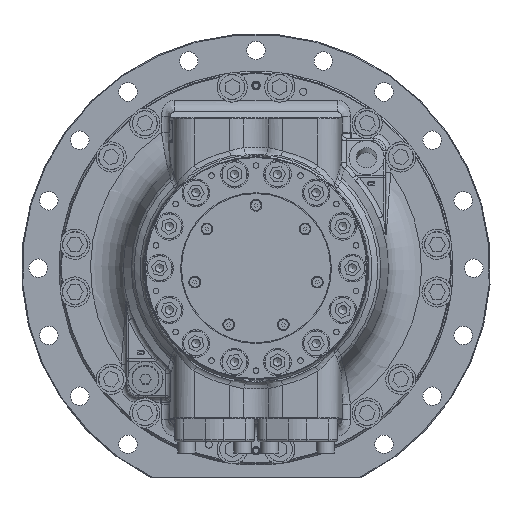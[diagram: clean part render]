
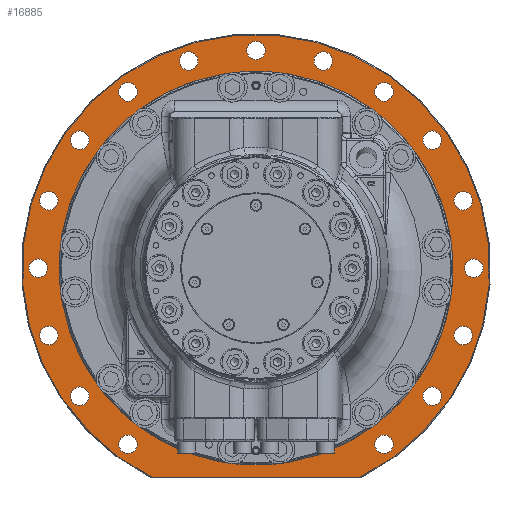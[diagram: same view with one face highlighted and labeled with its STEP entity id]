
A CAD part, left-side view. The second image highlights one B-rep face of the part: STEP entity #16885.
In plain terms, the highlighted planar face has unit normal (-1, 0, 0).
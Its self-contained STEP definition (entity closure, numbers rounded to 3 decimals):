
#10223=LINE('',#119062,#12901);
#12901=VECTOR('',#75235,1.);
#16885=ADVANCED_FACE('',(#20301,#20302,#20303,#20304,#20305,#20306,#20307,
#20308,#20309,#20310,#20311,#20312,#20313,#20314,#20315,#20316,#20317,#20318,
#20319),#18652,.F.);
#18652=PLANE('',#62041);
#20301=FACE_BOUND('',#24646,.T.);
#20302=FACE_BOUND('',#24647,.T.);
#20303=FACE_BOUND('',#24648,.T.);
#20304=FACE_BOUND('',#24649,.T.);
#20305=FACE_BOUND('',#24650,.T.);
#20306=FACE_BOUND('',#24651,.T.);
#20307=FACE_BOUND('',#24652,.T.);
#20308=FACE_BOUND('',#24653,.T.);
#20309=FACE_BOUND('',#24654,.T.);
#20310=FACE_BOUND('',#24655,.T.);
#20311=FACE_BOUND('',#24656,.T.);
#20312=FACE_BOUND('',#24657,.T.);
#20313=FACE_BOUND('',#24658,.T.);
#20314=FACE_BOUND('',#24659,.T.);
#20315=FACE_BOUND('',#24660,.T.);
#20316=FACE_BOUND('',#24661,.T.);
#20317=FACE_BOUND('',#24662,.T.);
#20318=FACE_BOUND('',#24663,.T.);
#20319=FACE_BOUND('',#24664,.T.);
#24646=EDGE_LOOP('',(#39749));
#24647=EDGE_LOOP('',(#39750));
#24648=EDGE_LOOP('',(#39751));
#24649=EDGE_LOOP('',(#39752));
#24650=EDGE_LOOP('',(#39753));
#24651=EDGE_LOOP('',(#39754));
#24652=EDGE_LOOP('',(#39755));
#24653=EDGE_LOOP('',(#39756));
#24654=EDGE_LOOP('',(#39757));
#24655=EDGE_LOOP('',(#39758));
#24656=EDGE_LOOP('',(#39759));
#24657=EDGE_LOOP('',(#39760));
#24658=EDGE_LOOP('',(#39761));
#24659=EDGE_LOOP('',(#39762));
#24660=EDGE_LOOP('',(#39763));
#24661=EDGE_LOOP('',(#39764));
#24662=EDGE_LOOP('',(#39765));
#24663=EDGE_LOOP('',(#39766));
#24664=EDGE_LOOP('',(#39767,#39768));
#39749=ORIENTED_EDGE('',*,*,#52890,.F.);
#39750=ORIENTED_EDGE('',*,*,#52887,.T.);
#39751=ORIENTED_EDGE('',*,*,#52885,.T.);
#39752=ORIENTED_EDGE('',*,*,#52883,.T.);
#39753=ORIENTED_EDGE('',*,*,#52881,.T.);
#39754=ORIENTED_EDGE('',*,*,#52879,.T.);
#39755=ORIENTED_EDGE('',*,*,#52877,.T.);
#39756=ORIENTED_EDGE('',*,*,#52875,.T.);
#39757=ORIENTED_EDGE('',*,*,#52873,.T.);
#39758=ORIENTED_EDGE('',*,*,#52871,.T.);
#39759=ORIENTED_EDGE('',*,*,#52869,.T.);
#39760=ORIENTED_EDGE('',*,*,#52867,.T.);
#39761=ORIENTED_EDGE('',*,*,#52865,.T.);
#39762=ORIENTED_EDGE('',*,*,#52863,.T.);
#39763=ORIENTED_EDGE('',*,*,#52861,.T.);
#39764=ORIENTED_EDGE('',*,*,#52859,.T.);
#39765=ORIENTED_EDGE('',*,*,#52857,.T.);
#39766=ORIENTED_EDGE('',*,*,#52855,.T.);
#39767=ORIENTED_EDGE('',*,*,#52853,.F.);
#39768=ORIENTED_EDGE('',*,*,#52849,.T.);
#45222=VERTEX_POINT('',#119042);
#45223=VERTEX_POINT('',#119047);
#45226=VERTEX_POINT('',#119066);
#45228=VERTEX_POINT('',#119071);
#45230=VERTEX_POINT('',#119076);
#45232=VERTEX_POINT('',#119081);
#45234=VERTEX_POINT('',#119086);
#45236=VERTEX_POINT('',#119091);
#45238=VERTEX_POINT('',#119096);
#45240=VERTEX_POINT('',#119101);
#45242=VERTEX_POINT('',#119106);
#45244=VERTEX_POINT('',#119111);
#45246=VERTEX_POINT('',#119116);
#45248=VERTEX_POINT('',#119121);
#45250=VERTEX_POINT('',#119126);
#45252=VERTEX_POINT('',#119131);
#45254=VERTEX_POINT('',#119136);
#45256=VERTEX_POINT('',#119141);
#45258=VERTEX_POINT('',#119146);
#45261=VERTEX_POINT('',#119155);
#52849=EDGE_CURVE('',#45222,#45223,#56703,.T.);
#52853=EDGE_CURVE('',#45222,#45223,#10223,.T.);
#52855=EDGE_CURVE('',#45226,#45226,#56705,.T.);
#52857=EDGE_CURVE('',#45228,#45228,#56707,.T.);
#52859=EDGE_CURVE('',#45230,#45230,#56709,.T.);
#52861=EDGE_CURVE('',#45232,#45232,#56711,.T.);
#52863=EDGE_CURVE('',#45234,#45234,#56713,.T.);
#52865=EDGE_CURVE('',#45236,#45236,#56715,.T.);
#52867=EDGE_CURVE('',#45238,#45238,#56717,.T.);
#52869=EDGE_CURVE('',#45240,#45240,#56719,.T.);
#52871=EDGE_CURVE('',#45242,#45242,#56721,.T.);
#52873=EDGE_CURVE('',#45244,#45244,#56723,.T.);
#52875=EDGE_CURVE('',#45246,#45246,#56725,.T.);
#52877=EDGE_CURVE('',#45248,#45248,#56727,.T.);
#52879=EDGE_CURVE('',#45250,#45250,#56729,.T.);
#52881=EDGE_CURVE('',#45252,#45252,#56731,.T.);
#52883=EDGE_CURVE('',#45254,#45254,#56733,.T.);
#52885=EDGE_CURVE('',#45256,#45256,#56735,.T.);
#52887=EDGE_CURVE('',#45258,#45258,#56737,.T.);
#52890=EDGE_CURVE('',#45261,#45261,#56740,.T.);
#56703=CIRCLE('',#61981,279.);
#56705=CIRCLE('',#61986,11.);
#56707=CIRCLE('',#61989,11.);
#56709=CIRCLE('',#61992,11.);
#56711=CIRCLE('',#61995,11.);
#56713=CIRCLE('',#61998,11.);
#56715=CIRCLE('',#62001,11.);
#56717=CIRCLE('',#62004,11.);
#56719=CIRCLE('',#62007,11.);
#56721=CIRCLE('',#62010,11.);
#56723=CIRCLE('',#62013,11.);
#56725=CIRCLE('',#62016,11.);
#56727=CIRCLE('',#62019,11.);
#56729=CIRCLE('',#62022,11.);
#56731=CIRCLE('',#62025,11.);
#56733=CIRCLE('',#62028,11.);
#56735=CIRCLE('',#62031,11.);
#56737=CIRCLE('',#62034,11.);
#56740=CIRCLE('',#62040,235.);
#61981=AXIS2_PLACEMENT_3D('',#119048,#75227,#75228);
#61986=AXIS2_PLACEMENT_3D('',#119065,#75239,#75240);
#61989=AXIS2_PLACEMENT_3D('',#119070,#75245,#75246);
#61992=AXIS2_PLACEMENT_3D('',#119075,#75251,#75252);
#61995=AXIS2_PLACEMENT_3D('',#119080,#75257,#75258);
#61998=AXIS2_PLACEMENT_3D('',#119085,#75263,#75264);
#62001=AXIS2_PLACEMENT_3D('',#119090,#75269,#75270);
#62004=AXIS2_PLACEMENT_3D('',#119095,#75275,#75276);
#62007=AXIS2_PLACEMENT_3D('',#119100,#75281,#75282);
#62010=AXIS2_PLACEMENT_3D('',#119105,#75287,#75288);
#62013=AXIS2_PLACEMENT_3D('',#119110,#75293,#75294);
#62016=AXIS2_PLACEMENT_3D('',#119115,#75299,#75300);
#62019=AXIS2_PLACEMENT_3D('',#119120,#75305,#75306);
#62022=AXIS2_PLACEMENT_3D('',#119125,#75311,#75312);
#62025=AXIS2_PLACEMENT_3D('',#119130,#75317,#75318);
#62028=AXIS2_PLACEMENT_3D('',#119135,#75323,#75324);
#62031=AXIS2_PLACEMENT_3D('',#119140,#75329,#75330);
#62034=AXIS2_PLACEMENT_3D('',#119145,#75335,#75336);
#62040=AXIS2_PLACEMENT_3D('',#119154,#75347,#75348);
#62041=AXIS2_PLACEMENT_3D('',#119156,#75349,#75350);
#75227=DIRECTION('',(-1.,0.,0.));
#75228=DIRECTION('',(0.,0.,-1.));
#75235=DIRECTION('',(0.,1.,0.));
#75239=DIRECTION('',(1.,0.,0.));
#75240=DIRECTION('',(0.,0.,-1.));
#75245=DIRECTION('',(1.,0.,0.));
#75246=DIRECTION('',(0.,0.,-1.));
#75251=DIRECTION('',(1.,0.,0.));
#75252=DIRECTION('',(0.,0.,-1.));
#75257=DIRECTION('',(1.,0.,0.));
#75258=DIRECTION('',(0.,0.,-1.));
#75263=DIRECTION('',(1.,0.,0.));
#75264=DIRECTION('',(0.,0.,-1.));
#75269=DIRECTION('',(1.,0.,0.));
#75270=DIRECTION('',(0.,0.,-1.));
#75275=DIRECTION('',(1.,0.,0.));
#75276=DIRECTION('',(0.,0.,-1.));
#75281=DIRECTION('',(1.,0.,0.));
#75282=DIRECTION('',(0.,0.,-1.));
#75287=DIRECTION('',(1.,0.,0.));
#75288=DIRECTION('',(0.,0.,-1.));
#75293=DIRECTION('',(1.,0.,0.));
#75294=DIRECTION('',(0.,0.,-1.));
#75299=DIRECTION('',(1.,0.,0.));
#75300=DIRECTION('',(0.,0.,-1.));
#75305=DIRECTION('',(1.,0.,0.));
#75306=DIRECTION('',(0.,0.,-1.));
#75311=DIRECTION('',(1.,0.,0.));
#75312=DIRECTION('',(0.,0.,-1.));
#75317=DIRECTION('',(1.,0.,0.));
#75318=DIRECTION('',(0.,0.,-1.));
#75323=DIRECTION('',(1.,0.,0.));
#75324=DIRECTION('',(0.,0.,-1.));
#75329=DIRECTION('',(1.,0.,0.));
#75330=DIRECTION('',(0.,0.,-1.));
#75335=DIRECTION('',(1.,0.,0.));
#75336=DIRECTION('',(0.,0.,-1.));
#75347=DIRECTION('',(-1.,0.,0.));
#75348=DIRECTION('',(0.,0.,1.));
#75349=DIRECTION('',(1.,0.,0.));
#75350=DIRECTION('',(0.,0.,-1.));
#119042=CARTESIAN_POINT('',(57.,-123.859,-250.));
#119047=CARTESIAN_POINT('',(57.,123.859,-250.));
#119048=CARTESIAN_POINT('',(57.,0.,0.));
#119062=CARTESIAN_POINT('',(57.,0.,-250.));
#119065=CARTESIAN_POINT('',(57.,80.344,247.275));
#119066=CARTESIAN_POINT('',(57.,80.344,236.275));
#119070=CARTESIAN_POINT('',(57.,152.824,210.344));
#119071=CARTESIAN_POINT('',(57.,152.824,199.344));
#119075=CARTESIAN_POINT('',(57.,210.344,152.824));
#119076=CARTESIAN_POINT('',(57.,210.344,141.824));
#119080=CARTESIAN_POINT('',(57.,247.275,80.344));
#119081=CARTESIAN_POINT('',(57.,247.275,69.344));
#119085=CARTESIAN_POINT('',(57.,260.,0.));
#119086=CARTESIAN_POINT('',(57.,260.,-11.));
#119090=CARTESIAN_POINT('',(57.,247.275,-80.344));
#119091=CARTESIAN_POINT('',(57.,247.275,-91.344));
#119095=CARTESIAN_POINT('',(57.,210.344,-152.824));
#119096=CARTESIAN_POINT('',(57.,210.344,-163.824));
#119100=CARTESIAN_POINT('',(57.,152.824,-210.344));
#119101=CARTESIAN_POINT('',(57.,152.824,-221.344));
#119105=CARTESIAN_POINT('',(57.,-152.824,-210.344));
#119106=CARTESIAN_POINT('',(57.,-152.824,-221.344));
#119110=CARTESIAN_POINT('',(57.,-210.344,-152.824));
#119111=CARTESIAN_POINT('',(57.,-210.344,-163.824));
#119115=CARTESIAN_POINT('',(57.,-247.275,-80.344));
#119116=CARTESIAN_POINT('',(57.,-247.275,-91.344));
#119120=CARTESIAN_POINT('',(57.,-260.,0.));
#119121=CARTESIAN_POINT('',(57.,-260.,-11.));
#119125=CARTESIAN_POINT('',(57.,-247.275,80.344));
#119126=CARTESIAN_POINT('',(57.,-247.275,69.344));
#119130=CARTESIAN_POINT('',(57.,-210.344,152.824));
#119131=CARTESIAN_POINT('',(57.,-210.344,141.824));
#119135=CARTESIAN_POINT('',(57.,-152.824,210.344));
#119136=CARTESIAN_POINT('',(57.,-152.824,199.344));
#119140=CARTESIAN_POINT('',(57.,-80.344,247.275));
#119141=CARTESIAN_POINT('',(57.,-80.344,236.275));
#119145=CARTESIAN_POINT('',(57.,0.,260.));
#119146=CARTESIAN_POINT('',(57.,0.,249.));
#119154=CARTESIAN_POINT('',(57.,0.,0.));
#119155=CARTESIAN_POINT('',(57.,0.,235.));
#119156=CARTESIAN_POINT('',(57.,0.,280.));
